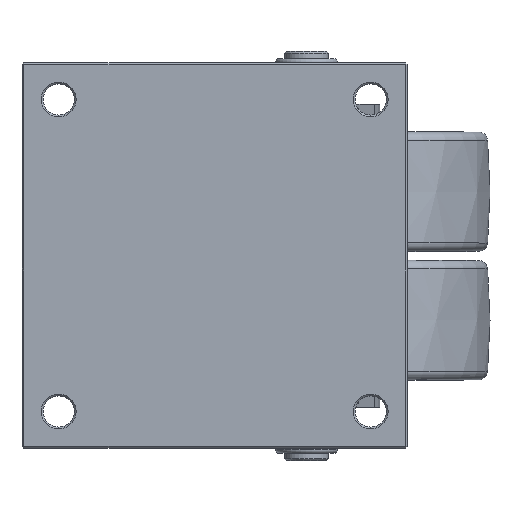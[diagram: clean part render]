
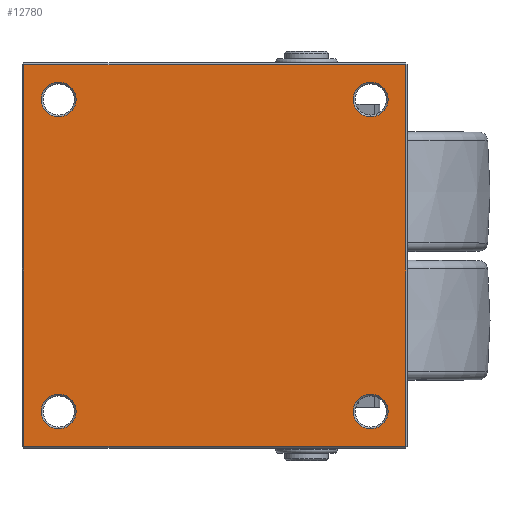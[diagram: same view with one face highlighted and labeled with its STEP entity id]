
A CAD part, top view. The second image highlights one B-rep face of the part: STEP entity #12780.
In plain terms, the highlighted planar face has unit normal (0, 0, 1).
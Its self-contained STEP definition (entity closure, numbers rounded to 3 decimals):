
#12693=CARTESIAN_POINT('',(94.5,85.0,0.0));
#12694=VERTEX_POINT('',#12693);
#12695=CARTESIAN_POINT('',(85.0,85.0,0.0));
#12696=DIRECTION('',(0.0,0.0,1.0));
#12697=DIRECTION('',(-1.0,0.0,0.0));
#12698=AXIS2_PLACEMENT_3D('',#12695,#12696,#12697);
#12699=CIRCLE('',#12698,9.5);
#12700=EDGE_CURVE('',#12694,#12694,#12699,.T.);
#12705=CARTESIAN_POINT('',(0.0,0.,0.0));
#12706=DIRECTION('',(0.0,0.0,1.0));
#12707=DIRECTION('',(1.0,0.0,0.0));
#12708=AXIS2_PLACEMENT_3D('',#12705,#12706,#12707);
#12709=PLANE('',#12708);
#12710=CARTESIAN_POINT('',(-104.0,104.0,0.0));
#12711=VERTEX_POINT('',#12710);
#12712=CARTESIAN_POINT('',(104.0,104.0,0.0));
#12713=VERTEX_POINT('',#12712);
#12714=CARTESIAN_POINT('',(-104.0,104.0,0.0));
#12715=DIRECTION('',(1.0,0.0,0.0));
#12716=VECTOR('',#12715,208.0);
#12717=LINE('',#12714,#12716);
#12718=EDGE_CURVE('',#12711,#12713,#12717,.T.);
#12719=ORIENTED_EDGE('',*,*,#12718,.F.);
#12720=CARTESIAN_POINT('',(-104.0,-104.0,0.0));
#12721=VERTEX_POINT('',#12720);
#12722=CARTESIAN_POINT('',(-104.0,-104.0,0.0));
#12723=DIRECTION('',(0.0,1.0,0.0));
#12724=VECTOR('',#12723,208.0);
#12725=LINE('',#12722,#12724);
#12726=EDGE_CURVE('',#12721,#12711,#12725,.T.);
#12727=ORIENTED_EDGE('',*,*,#12726,.F.);
#12728=CARTESIAN_POINT('',(104.0,-104.0,0.0));
#12729=VERTEX_POINT('',#12728);
#12730=CARTESIAN_POINT('',(104.0,-104.0,0.0));
#12731=DIRECTION('',(-1.0,0.0,0.0));
#12732=VECTOR('',#12731,208.0);
#12733=LINE('',#12730,#12732);
#12734=EDGE_CURVE('',#12729,#12721,#12733,.T.);
#12735=ORIENTED_EDGE('',*,*,#12734,.F.);
#12736=CARTESIAN_POINT('',(104.0,104.0,0.0));
#12737=DIRECTION('',(0.0,-1.0,0.0));
#12738=VECTOR('',#12737,208.0);
#12739=LINE('',#12736,#12738);
#12740=EDGE_CURVE('',#12713,#12729,#12739,.T.);
#12741=ORIENTED_EDGE('',*,*,#12740,.F.);
#12742=EDGE_LOOP('',(#12719,#12727,#12735,#12741));
#12743=FACE_OUTER_BOUND('',#12742,.T.);
#12744=CARTESIAN_POINT('',(94.5,-85.0,0.0));
#12745=VERTEX_POINT('',#12744);
#12746=CARTESIAN_POINT('',(85.0,-85.0,0.0));
#12747=DIRECTION('',(0.0,0.0,1.0));
#12748=DIRECTION('',(-1.0,0.0,0.0));
#12749=AXIS2_PLACEMENT_3D('',#12746,#12747,#12748);
#12750=CIRCLE('',#12749,9.5);
#12751=EDGE_CURVE('',#12745,#12745,#12750,.T.);
#12752=ORIENTED_EDGE('',*,*,#12751,.F.);
#12753=EDGE_LOOP('',(#12752));
#12754=FACE_BOUND('',#12753,.T.);
#12755=CARTESIAN_POINT('',(-75.5,-85.0,0.0));
#12756=VERTEX_POINT('',#12755);
#12757=CARTESIAN_POINT('',(-85.0,-85.0,0.0));
#12758=DIRECTION('',(0.0,0.0,1.0));
#12759=DIRECTION('',(-1.0,0.0,0.0));
#12760=AXIS2_PLACEMENT_3D('',#12757,#12758,#12759);
#12761=CIRCLE('',#12760,9.5);
#12762=EDGE_CURVE('',#12756,#12756,#12761,.T.);
#12763=ORIENTED_EDGE('',*,*,#12762,.F.);
#12764=EDGE_LOOP('',(#12763));
#12765=FACE_BOUND('',#12764,.T.);
#12766=CARTESIAN_POINT('',(-75.5,85.0,0.0));
#12767=VERTEX_POINT('',#12766);
#12768=CARTESIAN_POINT('',(-85.0,85.0,0.0));
#12769=DIRECTION('',(0.0,0.0,1.0));
#12770=DIRECTION('',(-1.0,0.0,0.0));
#12771=AXIS2_PLACEMENT_3D('',#12768,#12769,#12770);
#12772=CIRCLE('',#12771,9.5);
#12773=EDGE_CURVE('',#12767,#12767,#12772,.T.);
#12774=ORIENTED_EDGE('',*,*,#12773,.F.);
#12775=EDGE_LOOP('',(#12774));
#12776=FACE_BOUND('',#12775,.T.);
#12777=ORIENTED_EDGE('',*,*,#12700,.F.);
#12778=EDGE_LOOP('',(#12777));
#12779=FACE_BOUND('',#12778,.T.);
#12780=ADVANCED_FACE('',(#12743,#12754,#12765,#12776,#12779),#12709,.T.);
